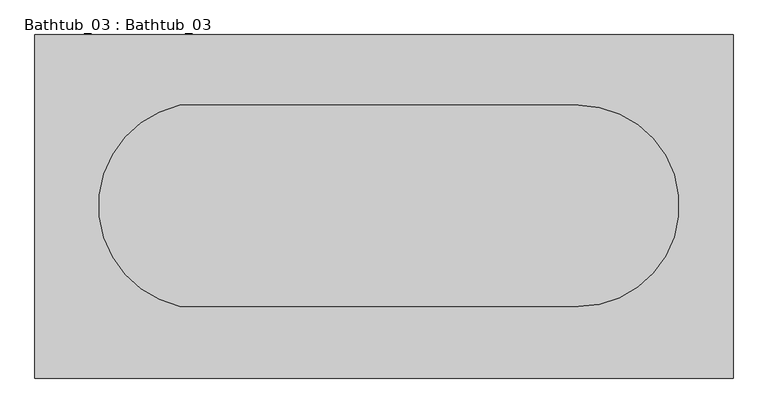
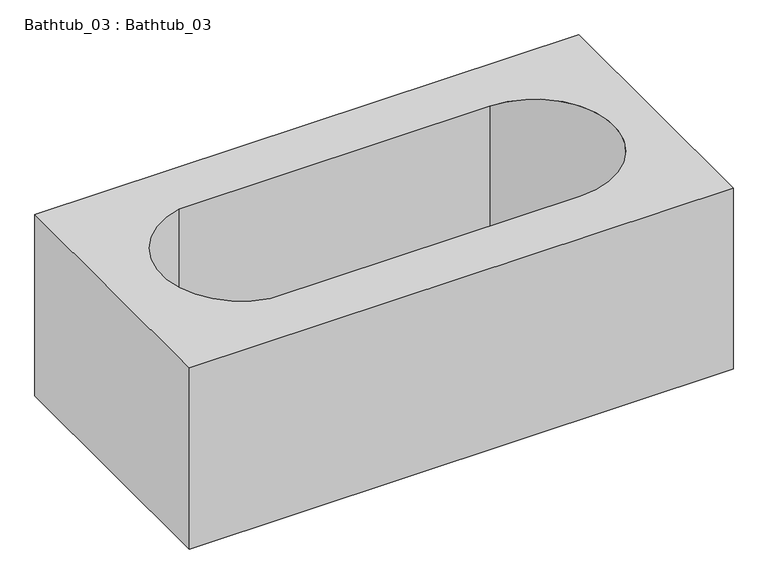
"""IFC4 building model written with IfcOpenShell, lengths in millimetres: flow terminal geometry, Bathtub_03 : Bathtub_03."""

from ifc_helpers import new_model, si_unit, frame, origin, place, context, project, spatial, polyline, circle_curve, source, transform, mapped, element, save
from ifc_brep_helpers import plane_surface, revolved_surface, advanced_brep


def bathtub_03_bathtub_03_c426ee23(model_context):
    return source(origin(), model_context, "Body", "AdvancedBrep", [
        advanced_brep(
        [(4157.3010582, 24150.6382785, 8690.4670848), (2423.7390452, 24150.6382785, 8690.4670848), (2423.7390452, 23297.5059342, 8690.4670848), (4157.3010582, 23297.5059342, 8690.4670848), (2783.7524403, 23975.7370866, 8690.4670848), (3773.0562833, 23975.7370866, 8690.4670848), (3773.0562833, 23475.7370866, 8690.4670848), (2783.7524403, 23475.7370866, 8690.4670848), (4157.3010582, 24150.6382785, 8080.0), (4157.3010582, 23297.5059342, 8080.0), (2423.7390452, 23297.5059342, 8080.0), (2423.7390452, 24150.6382785, 8080.0), (2783.7524403, 23975.7370866, 8226.0418346), (3773.0562833, 23975.7370866, 8226.0418346), (3773.0562833, 23475.7370866, 8226.0418346), (2783.7524403, 23475.7370866, 8226.0418346)],
        [
            (0, 1),
            (1, 2),
            (2, 3),
            (3, 0),
            (4, 5),
            (5, 6, circle_curve(frame((3773.0562833, 23725.7370866, 8690.4670848), z_axis=(0.0, 0.0, -1.0), x_axis=(1.0, 0.0, 0.0)), 250.0)),
            (6, 7),
            (7, 4, circle_curve(frame((2838.4123546, 23725.7370866, 8690.4670848), z_axis=(0.0, 0.0, -1.0), x_axis=(1.0, 0.0, 0.0)), 255.9056589)),
            (8, 9),
            (9, 10),
            (10, 11),
            (11, 8),
            (0, 8),
            (11, 1),
            (10, 2),
            (9, 3),
            (12, 13),
            (13, 5),
            (4, 12),
            (14, 15),
            (15, 7),
            (6, 14),
            (12, 15, circle_curve(frame((2838.4123546, 23725.7370866, 8226.0418346), z_axis=(0.0, 0.0, 1.0), x_axis=(1.0, 0.0, 0.0)), 255.9056589)),
            (14, 13, circle_curve(frame((3773.0562833, 23725.7370866, 8226.0418346), z_axis=(0.0, 0.0, 1.0), x_axis=(1.0, 0.0, 0.0)), 250.0)),
        ],
        [
            plane_surface(frame((2433.3098726, 24150.6382785, 8690.4670848), z_axis=(0.0, 0.0, 1.0), x_axis=(-1.0, 0.0, 0.0))),
            plane_surface(frame((2433.3098726, 24150.6382785, 8080.0), z_axis=(0.0, 0.0, -1.0), x_axis=(1.0, 0.0, 0.0))),
            plane_surface(frame((4157.3010582, 24150.6382785, 8690.4670848), z_axis=(0.0, 1.0, 0.0), x_axis=(0.0, 0.0, -1.0))),
            plane_surface(frame((2423.7390452, 24150.6382785, 8690.4670848), z_axis=(-1.0, 0.0, 0.0), x_axis=(0.0, 0.0, -1.0))),
            plane_surface(frame((2423.7390452, 23297.5059342, 8690.4670848), z_axis=(0.0, -1.0, 0.0), x_axis=(0.0, 0.0, -1.0))),
            plane_surface(frame((4157.3010582, 23297.5059342, 8690.4670848), z_axis=(1.0, 0.0, 0.0), x_axis=(0.0, 0.0, -1.0))),
            plane_surface(frame((3773.0562833, 23975.7370866, 8727.7869709), z_axis=(0.0, -1.0, 0.0), x_axis=(0.0, 0.0, -1.0))),
            plane_surface(frame((2783.7524403, 23475.7370866, 8727.7869709), z_axis=(0.0, 1.0, 0.0), x_axis=(0.0, 0.0, -1.0))),
            plane_surface(frame((2543.7524403, 23975.7370866, 8226.0418346), z_axis=(0.0, 0.0, 1.0), x_axis=(1.0, 0.0, 0.0))),
            revolved_surface(polyline([(3094.3180135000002, 23725.7370866, 8690.4670848), (3094.3180135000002, 23725.7370866, 8226.0418346)]), (2838.4123546, 23725.7370866, 8226.0418346), (0.0, 0.0, 1.0)),
            revolved_surface(polyline([(4023.0562833, 23725.7370866, 8690.4670848), (4023.0562833, 23725.7370866, 8226.0418346)]), (3773.0562833, 23725.7370866, 8226.0418346), (0.0, 0.0, 1.0)),
        ],
        [
            (0, [[1, 2, 3, 4], [5, 6, 7, 8]]),
            (1, [[9, 10, 11, 12]]),
            (2, [[-1, 13, -12, 14]]),
            (3, [[-2, -14, -11, 15]]),
            (4, [[-3, -15, -10, 16]]),
            (5, [[-4, -16, -9, -13]]),
            (6, [[17, 18, -5, 19]]),
            (7, [[20, 21, -7, 22]]),
            (8, [[-17, 23, -20, 24]]),
            (9, [[-23, -19, -8, -21]]),
            (10, [[-24, -22, -6, -18]]),
        ],
    ),
    ])


if __name__ == "__main__":
    model = new_model("IFC4")
    model_context = context("Model", 3, world=origin())
    ifc_project = project(units=[si_unit("LENGTHUNIT", "METRE", prefix="MILLI")], contexts=[model_context])
    site = spatial("IfcSite", under=ifc_project)
    building = spatial("IfcBuilding", under=site)
    placement = place(None, origin())
    bathtub_03_bathtub_03_shape = bathtub_03_bathtub_03_c426ee23(model_context)
    element("IfcFlowTerminal", 1, ObjectType="Bathtub_03 : Bathtub_03", at=placement, inside=building, context=model_context, shape_type="MappedRepresentation", body=[
        mapped(bathtub_03_bathtub_03_shape, transform((0.0, 0.0, 0.0), x_axis=(1.0, 0.0, 0.0), y_axis=(0.0, 1.0, 0.0), z_axis=(0.0, 0.0, 1.0))),
    ])
    save(model, "model.ifc")
